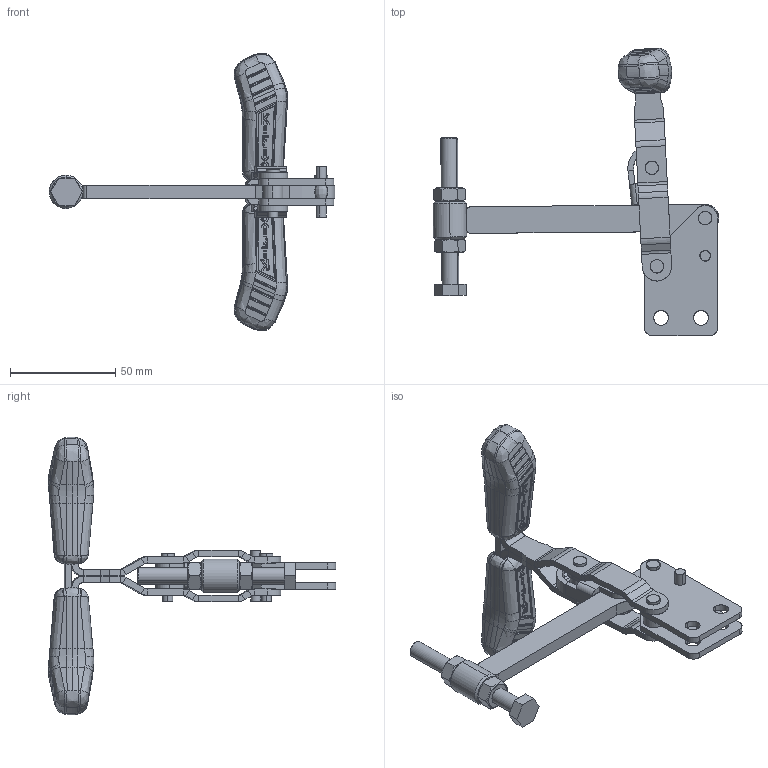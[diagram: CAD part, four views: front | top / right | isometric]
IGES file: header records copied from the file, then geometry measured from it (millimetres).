
Start section: SolidWorks IGES file using analytic representation for surfaces
Global section: file name: C:\Projetos\Grampos\KF-017 T\KF-017 RTS\KF-017 RTS.IGS; native system: SolidWorks 2018; preprocessor: SolidWorks 2018; author: Ricardo; date: 180604.162418; units: millimetre
Bounding box: 136.04 x 136.72 x 132.26 mm (x, y, z)
Surface area: 48726.3 mm2 (no closed solid volume)
Topology: 0 solids, 0 shells, 1621 faces, 14541 edges, 14423 vertices
Faces by surface type: bspline 984, revolution 637
